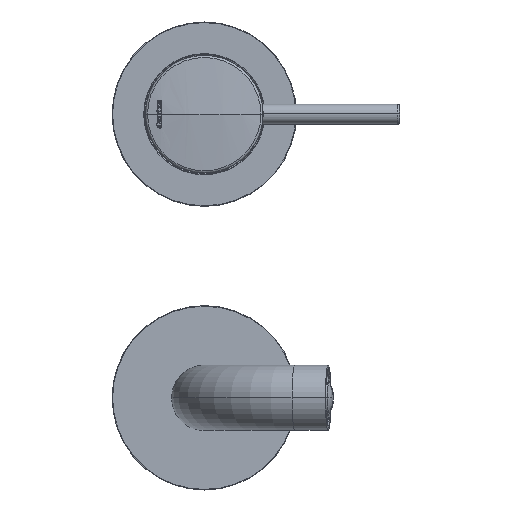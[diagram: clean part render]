
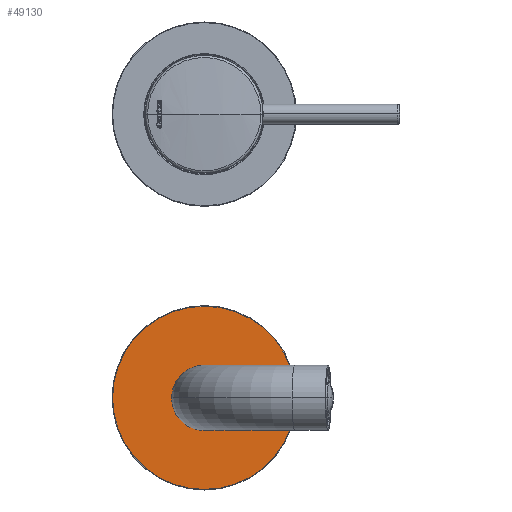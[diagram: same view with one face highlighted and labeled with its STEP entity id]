
A CAD part, left-side view. The second image highlights one B-rep face of the part: STEP entity #49130.
In plain terms, the highlighted planar face has unit normal (-1, 0, 0) as drawn and (0, 1, 0) by its records, which use the part's own axes.
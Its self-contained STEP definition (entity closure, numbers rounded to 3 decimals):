
#42666=CARTESIAN_POINT('',(0.,5.,0.));
#42667=DIRECTION('',(0.,1.,0.));
#42668=DIRECTION('',(0.,0.,-1.));
#42669=AXIS2_PLACEMENT_3D('',#42666,#42667,#42668);
#42671=CARTESIAN_POINT('',(0.,5.,0.));
#42672=DIRECTION('',(0.,1.,0.));
#42673=DIRECTION('',(0.,0.,1.));
#42674=AXIS2_PLACEMENT_3D('',#42671,#42672,#42673);
#42676=CARTESIAN_POINT('',(0.,5.,0.));
#42677=DIRECTION('',(0.,1.,0.));
#42678=DIRECTION('',(0.,0.,-1.));
#42679=AXIS2_PLACEMENT_3D('',#42676,#42677,#42678);
#42681=CARTESIAN_POINT('',(0.,5.,0.));
#42682=DIRECTION('',(0.,1.,0.));
#42683=DIRECTION('',(0.,0.,1.));
#42684=AXIS2_PLACEMENT_3D('',#42681,#42682,#42683);
#48133=CARTESIAN_POINT('',(0.,5.,-10.7));
#48134=CARTESIAN_POINT('',(0.,5.,10.7));
#48135=VERTEX_POINT('',#48133);
#48136=VERTEX_POINT('',#48134);
#48177=CARTESIAN_POINT('',(0.,5.,-32.3));
#48178=CARTESIAN_POINT('',(0.,5.,32.3));
#48179=VERTEX_POINT('',#48177);
#48180=VERTEX_POINT('',#48178);
#49114=CARTESIAN_POINT('',(0.,5.,0.));
#49115=DIRECTION('',(0.,1.,0.));
#49116=DIRECTION('',(0.,0.,-1.));
#49117=AXIS2_PLACEMENT_3D('',#49114,#49115,#49116);
#49118=PLANE('',#49117);
#49120=ORIENTED_EDGE('',*,*,#49119,.F.);
#49121=ORIENTED_EDGE('',*,*,#49104,.F.);
#49122=EDGE_LOOP('',(#49120,#49121));
#49123=FACE_OUTER_BOUND('',#49122,.F.);
#49125=ORIENTED_EDGE('',*,*,#49124,.T.);
#49127=ORIENTED_EDGE('',*,*,#49126,.T.);
#49128=EDGE_LOOP('',(#49125,#49127));
#49129=FACE_BOUND('',#49128,.F.);
#49130=ADVANCED_FACE('',(#49123,#49129),#49118,.T.);
#42670=CIRCLE('',#42669,10.7);
#42675=CIRCLE('',#42674,10.7);
#42680=CIRCLE('',#42679,32.3);
#42685=CIRCLE('',#42684,32.3);
#49104=EDGE_CURVE('',#48180,#48179,#42685,.T.);
#49119=EDGE_CURVE('',#48179,#48180,#42680,.T.);
#49124=EDGE_CURVE('',#48135,#48136,#42670,.T.);
#49126=EDGE_CURVE('',#48136,#48135,#42675,.T.);
